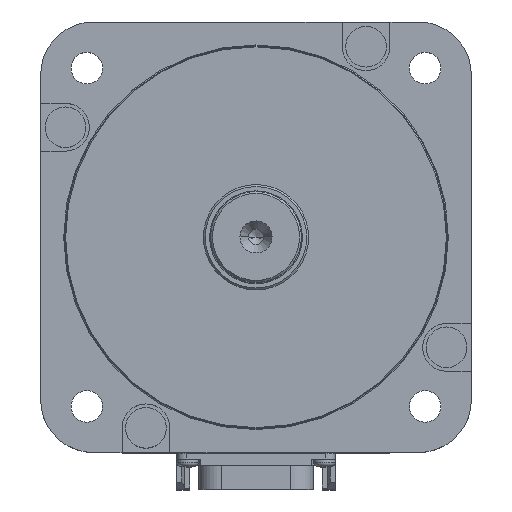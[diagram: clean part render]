
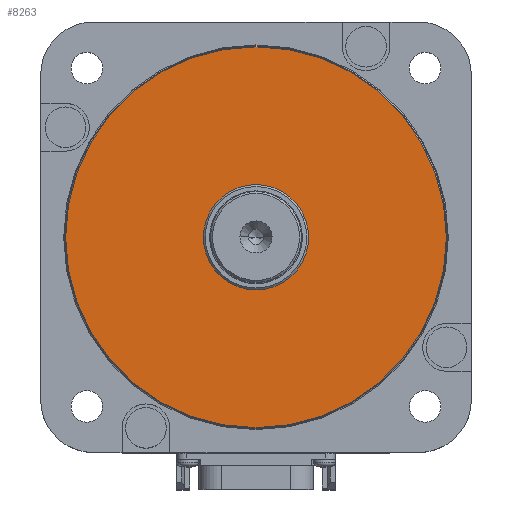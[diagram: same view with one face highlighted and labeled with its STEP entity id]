
A CAD part, top view. The second image highlights one B-rep face of the part: STEP entity #8263.
In plain terms, the highlighted planar face has unit normal (0, 0, 1).
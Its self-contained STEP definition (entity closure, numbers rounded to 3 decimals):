
#1742=CARTESIAN_POINT('',(0.,0.,3.));
#1743=DIRECTION('',(0.,0.,-1.));
#1744=DIRECTION('',(1.,0.,0.));
#1745=AXIS2_PLACEMENT_3D('',#1742,#1743,#1744);
#1747=CARTESIAN_POINT('',(0.,0.,3.));
#1748=DIRECTION('',(0.,0.,-1.));
#1749=DIRECTION('',(-1.,0.,0.));
#1750=AXIS2_PLACEMENT_3D('',#1747,#1748,#1749);
#1752=CARTESIAN_POINT('',(0.,0.,3.));
#1753=DIRECTION('',(0.,0.,1.));
#1754=DIRECTION('',(1.,0.,0.));
#1755=AXIS2_PLACEMENT_3D('',#1752,#1753,#1754);
#1757=CARTESIAN_POINT('',(0.,0.,3.));
#1758=DIRECTION('',(0.,0.,1.));
#1759=DIRECTION('',(-1.,0.,0.));
#1760=AXIS2_PLACEMENT_3D('',#1757,#1758,#1759);
#4804=CARTESIAN_POINT('',(-39.8,0.,3.));
#4805=VERTEX_POINT('',#4804);
#4806=CARTESIAN_POINT('',(39.8,0.,3.));
#4807=VERTEX_POINT('',#4806);
#5814=CARTESIAN_POINT('',(11.,0.,3.));
#5815=CARTESIAN_POINT('',(-11.,0.,3.));
#5816=VERTEX_POINT('',#5814);
#5817=VERTEX_POINT('',#5815);
#8247=CARTESIAN_POINT('',(0.,0.,3.));
#8248=DIRECTION('',(0.,0.,1.));
#8249=DIRECTION('',(1.,0.,0.));
#8250=AXIS2_PLACEMENT_3D('',#8247,#8248,#8249);
#8251=PLANE('',#8250);
#8252=ORIENTED_EDGE('',*,*,#8237,.T.);
#8254=ORIENTED_EDGE('',*,*,#8253,.T.);
#8255=EDGE_LOOP('',(#8252,#8254));
#8256=FACE_OUTER_BOUND('',#8255,.F.);
#8258=ORIENTED_EDGE('',*,*,#8257,.T.);
#8260=ORIENTED_EDGE('',*,*,#8259,.T.);
#8261=EDGE_LOOP('',(#8258,#8260));
#8262=FACE_BOUND('',#8261,.F.);
#8263=ADVANCED_FACE('',(#8256,#8262),#8251,.T.);
#1746=CIRCLE('',#1745,39.8);
#1751=CIRCLE('',#1750,39.8);
#1756=CIRCLE('',#1755,11.);
#1761=CIRCLE('',#1760,11.);
#8237=EDGE_CURVE('',#4807,#4805,#1746,.T.);
#8253=EDGE_CURVE('',#4805,#4807,#1751,.T.);
#8257=EDGE_CURVE('',#5816,#5817,#1756,.T.);
#8259=EDGE_CURVE('',#5817,#5816,#1761,.T.);
